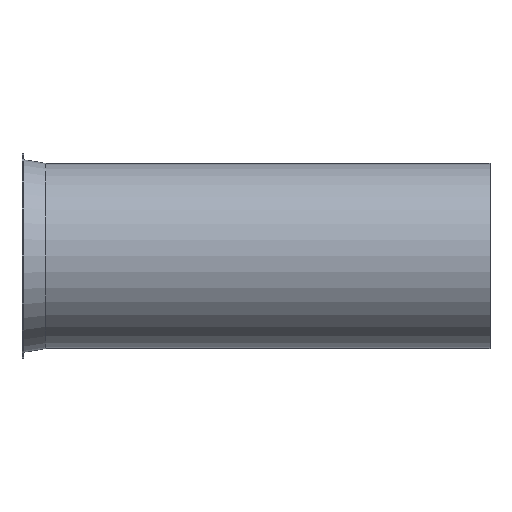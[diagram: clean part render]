
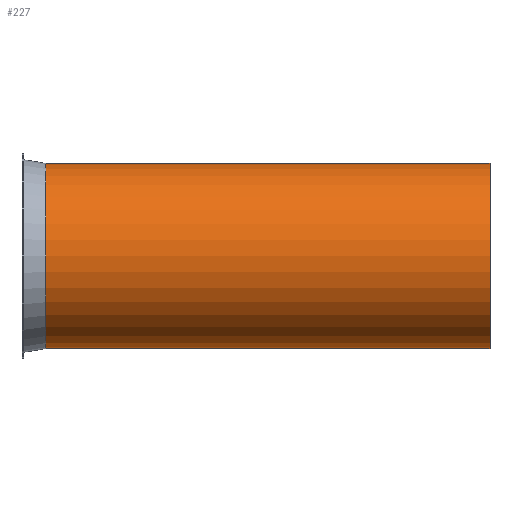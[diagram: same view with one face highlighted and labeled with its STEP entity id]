
A CAD part, front view. The second image highlights one B-rep face of the part: STEP entity #227.
In plain terms, the highlighted cylindrical face has radius 97.5 mm (diameter 195 mm), a full revolution.
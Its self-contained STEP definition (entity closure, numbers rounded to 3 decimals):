
#132=CARTESIAN_POINT('',(-2.081,46.834,0.0));
#133=VERTEX_POINT('',#132);
#134=CARTESIAN_POINT('',(-2.081,144.334,0.0));
#135=DIRECTION('',(-1.0,0.0,0.0));
#136=DIRECTION('',(0.0,-1.0,0.0));
#137=AXIS2_PLACEMENT_3D('',#134,#135,#136);
#138=CIRCLE('',#137,97.5);
#139=EDGE_CURVE('',#133,#133,#138,.T.);
#201=CARTESIAN_POINT('',(465.919,46.834,0.0));
#202=VERTEX_POINT('',#201);
#203=CARTESIAN_POINT('',(465.919,144.334,0.0));
#204=DIRECTION('',(-1.0,0.0,0.0));
#205=DIRECTION('',(0.0,-1.0,0.0));
#206=AXIS2_PLACEMENT_3D('',#203,#204,#205);
#207=CIRCLE('',#206,97.5);
#208=EDGE_CURVE('',#202,#202,#207,.T.);
#216=CARTESIAN_POINT('',(231.919,144.334,0.0));
#217=DIRECTION('',(-1.0,0.,0.0));
#218=DIRECTION('',(0.0,-1.0,0.0));
#219=AXIS2_PLACEMENT_3D('',#216,#217,#218);
#220=CYLINDRICAL_SURFACE('',#219,97.5);
#221=ORIENTED_EDGE('',*,*,#139,.F.);
#222=EDGE_LOOP('',(#221));
#223=FACE_OUTER_BOUND('',#222,.T.);
#224=ORIENTED_EDGE('',*,*,#208,.T.);
#225=EDGE_LOOP('',(#224));
#226=FACE_BOUND('',#225,.T.);
#227=ADVANCED_FACE('',(#223,#226),#220,.T.);
